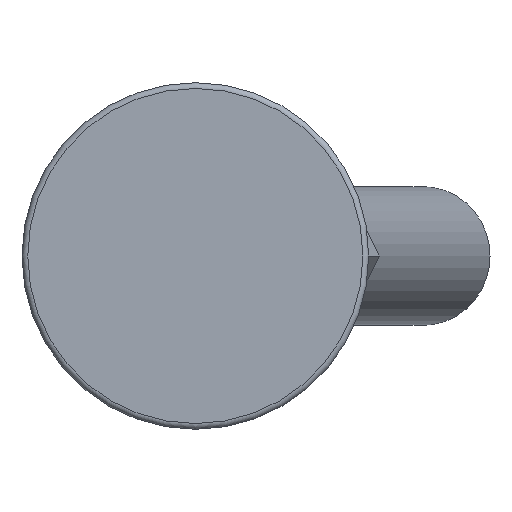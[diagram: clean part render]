
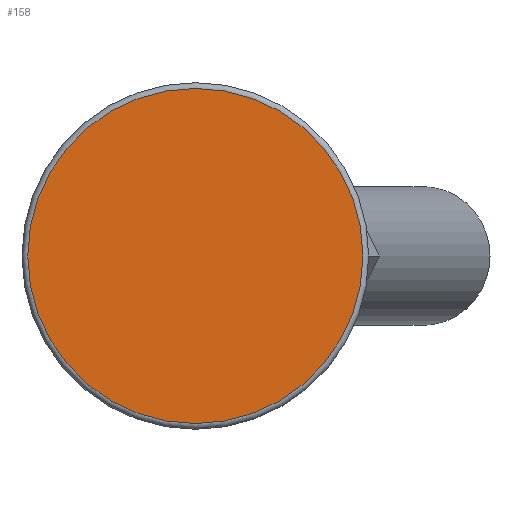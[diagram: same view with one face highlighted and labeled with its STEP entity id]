
A CAD part, front view. The second image highlights one B-rep face of the part: STEP entity #158.
In plain terms, the highlighted planar face has unit normal (0, -1, 0).
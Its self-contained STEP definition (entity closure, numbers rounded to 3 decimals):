
#158 = ADVANCED_FACE( '', ( #323 ), #324, .F. );
#323 = FACE_OUTER_BOUND( '', #519, .T. );
#324 = PLANE( '', #520 );
#519 = EDGE_LOOP( '', ( #737 ) );
#520 = AXIS2_PLACEMENT_3D( '', #738, #739, #740 );
#737 = ORIENTED_EDGE( '', *, *, #1129, .T. );
#738 = CARTESIAN_POINT( '', ( 29., 0., 0. ) );
#739 = DIRECTION( '', ( 0., 1., 0. ) );
#740 = DIRECTION( '', ( 0., 0., 1. ) );
#1129 = EDGE_CURVE( '', #1310, #1310, #1311, .T. );
#1310 = VERTEX_POINT( '', #1597 );
#1311 = CIRCLE( '', #1598, 29. );
#1597 = CARTESIAN_POINT( '', ( 0., 0., -29. ) );
#1598 = AXIS2_PLACEMENT_3D( '', #2052, #2053, #2054 );
#2052 = CARTESIAN_POINT( '', ( 0., 0., 0. ) );
#2053 = DIRECTION( '', ( 0., -1., 0. ) );
#2054 = DIRECTION( '', ( 0., 0., -1. ) );
